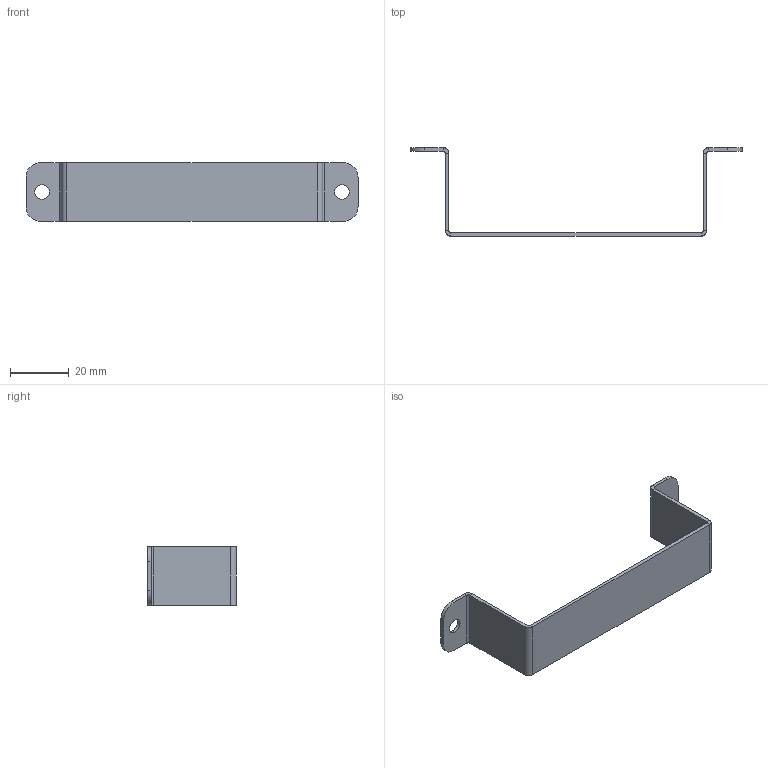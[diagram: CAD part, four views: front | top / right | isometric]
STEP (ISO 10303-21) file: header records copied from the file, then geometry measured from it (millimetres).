
FILE_DESCRIPTION (( 'STEP AP214' ), '1' );
FILE_NAME ('JYXJ-000-000-008-A APÑ¹°å.STEP', '2025-05-29T02:24:21', ( '' ), ( '' ), 'SwSTEP 2.0', 'SolidWorks 2020', '' );
FILE_SCHEMA (( 'AUTOMOTIVE_DESIGN' ));
Length unit declared in the file: millimetre
Products named in the file (1): JYXJ-000-000-008-A AP揤啣
Bounding box: 113 x 30.2 x 20 mm (x, y, z)
Volume: 3976.1 mm3; surface area: 7107 mm2
Topology: 1 solids, 1 shells, 46 faces, 100 edges, 56 vertices
Faces by surface type: plane 30, cylinder 16
Entity records: 1262 total; most frequent: DIRECTION 226, CARTESIAN_POINT 203, ORIENTED_EDGE 200, EDGE_CURVE 100, AXIS2_PLACEMENT_3D 79, LINE 68, VECTOR 68, VERTEX_POINT 56
